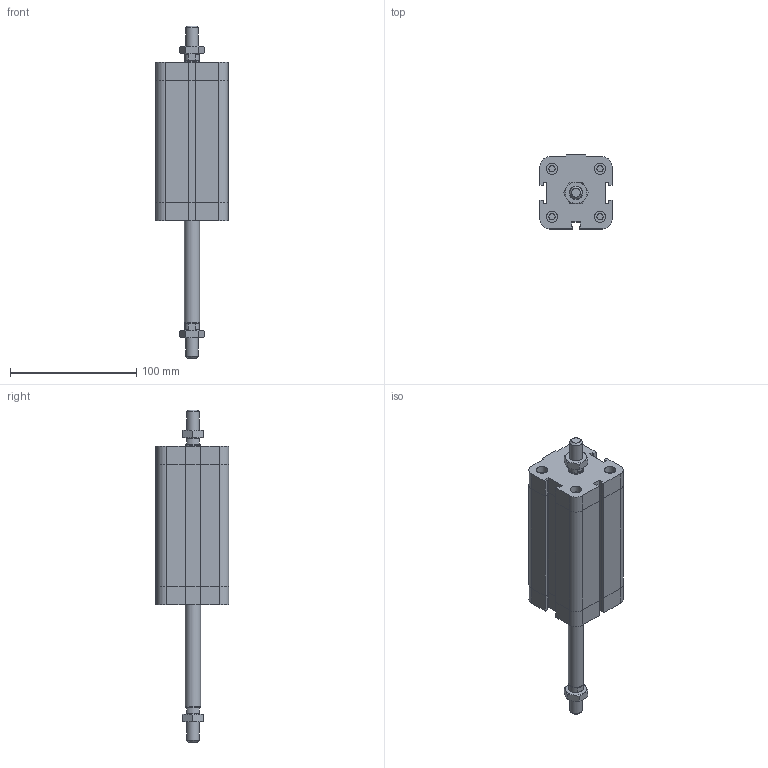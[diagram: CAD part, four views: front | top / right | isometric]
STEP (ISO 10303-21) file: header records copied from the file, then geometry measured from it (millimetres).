
FILE_DESCRIPTION((''),'2;1');
FILE_NAME('I:\Area Tecnica\Disegni\VARIE-3D\Componenti\EUROPE\15##_###_####_04_#\1561_40_0080_04_1.iam.stp','2009-04-20T14:45:58',(''),(''),'Autodesk Inventor 2009','Autodesk Inventor 2009','');
FILE_SCHEMA(('AUTOMOTIVE_DESIGN { 1 0 10303 214 1 1 1 1 }'));
Length unit declared in the file: millimetre
Products named in the file (4): 1561_40_0080_04_1; 1561_40_0080_03_1_C; 1561_40_0080_04_1_S; DBFM10
Assembly tree (4 placements, depth 2):
  1561_40_0080_04_1
    1561_40_0080_03_1_C
    1561_40_0080_04_1_S
    DBFM10  x2
Bounding box: 57 x 58.5 x 262.5 mm (x, y, z)
Volume: 391020.4 mm3; surface area: 59142.8 mm2
Topology: 4 solids, 4 shells, 222 faces, 483 edges, 289 vertices
Faces by surface type: plane 129, cone 35, bspline 33, cylinder 25
Full cylindrical faces by diameter (mm): 4.917 x4, 8.8 x1, 9 x4, 10 x1, 11.7 x2, 12 x1
Entity records: 5450 total; most frequent: CARTESIAN_POINT 1222, DIRECTION 802, ORIENTED_EDGE 772, EDGE_CURVE 386, AXIS2_PLACEMENT_3D 272, EDGE_LOOP 258, VECTOR 258, LINE 258
